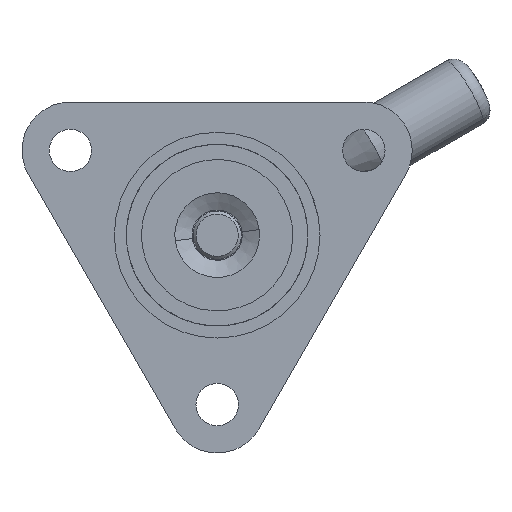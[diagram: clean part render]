
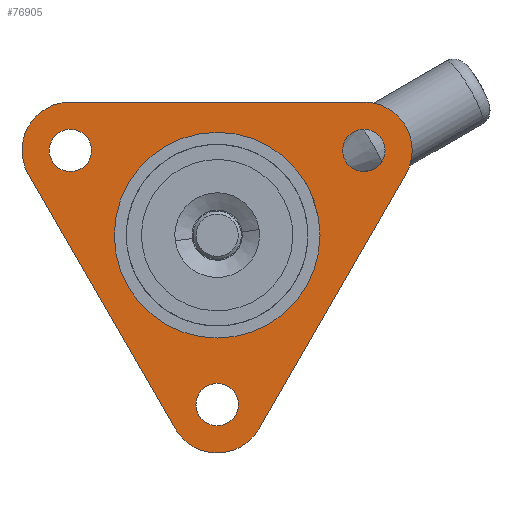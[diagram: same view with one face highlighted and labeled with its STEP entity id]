
A CAD part, front view. The second image highlights one B-rep face of the part: STEP entity #76905.
In plain terms, the highlighted planar face has unit normal (0, -1, 0).
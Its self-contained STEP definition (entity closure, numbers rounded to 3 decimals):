
#1835 = AXIS2_PLACEMENT_3D ( 'NONE', #77041, #76605, #75724 ) ;
#4236 = EDGE_CURVE ( 'NONE', #24502, #30993, #84709, .T. ) ;
#5323 = CARTESIAN_POINT ( 'NONE',  ( -127.75, 0., 6. ) ) ;
#5393 = ORIENTED_EDGE ( 'NONE', *, *, #125054, .T. ) ;
#7208 = FACE_OUTER_BOUND ( 'NONE', #18171, .T. ) ;
#7821 = AXIS2_PLACEMENT_3D ( 'NONE', #102102, #102009, #101970 ) ;
#9760 = CARTESIAN_POINT ( 'NONE',  ( -75.751, 0., 6. ) ) ;
#10213 = DIRECTION ( 'NONE',  ( 0., 1., 0. ) ) ;
#10938 = ORIENTED_EDGE ( 'NONE', *, *, #97482, .F. ) ;
#18098 = EDGE_CURVE ( 'NONE', #91615, #35105, #86009, .T. ) ;
#18171 = EDGE_LOOP ( 'NONE', ( #10938, #29555, #80240, #107930, #115090, #79913 ) ) ;
#19758 = VERTEX_POINT ( 'NONE', #74410 ) ;
#20046 = DIRECTION ( 'NONE',  ( -1., 0., 0. ) ) ;
#20107 = DIRECTION ( 'NONE',  ( 0., 0., 1. ) ) ;
#20142 = DIRECTION ( 'NONE',  ( 0., 1., 0. ) ) ;
#20288 = CARTESIAN_POINT ( 'NONE',  ( -124.25, 0., 6. ) ) ;
#20813 = AXIS2_PLACEMENT_3D ( 'NONE', #20288, #20142, #20046 ) ;
#21064 = CARTESIAN_POINT ( 'NONE',  ( -131.178, 0., 10. ) ) ;
#21697 = CIRCLE ( 'NONE', #20813, 3.5 ) ;
#22850 = DIRECTION ( 'NONE',  ( 0.5, 0., 0.866 ) ) ;
#22942 = CARTESIAN_POINT ( 'NONE',  ( -68.823, 0., 10. ) ) ;
#23204 = EDGE_CURVE ( 'NONE', #58658, #130313, #37476, .T. ) ;
#24502 = VERTEX_POINT ( 'NONE', #64154 ) ;
#25527 = CARTESIAN_POINT ( 'NONE',  ( -117., 0., 20. ) ) ;
#27708 = VERTEX_POINT ( 'NONE', #33888 ) ;
#29555 = ORIENTED_EDGE ( 'NONE', *, *, #4236, .T. ) ;
#30164 = DIRECTION ( 'NONE',  ( -1., 0., 0. ) ) ;
#30190 = DIRECTION ( 'NONE',  ( 0., 1., 0. ) ) ;
#30346 = CARTESIAN_POINT ( 'NONE',  ( -124.25, 0., 6. ) ) ;
#30993 = VERTEX_POINT ( 'NONE', #64030 ) ;
#33888 = CARTESIAN_POINT ( 'NONE',  ( -75.751, 0., -2. ) ) ;
#33971 = ORIENTED_EDGE ( 'NONE', *, *, #18098, .F. ) ;
#34559 = FACE_BOUND ( 'NONE', #35442, .T. ) ;
#35105 = VERTEX_POINT ( 'NONE', #25527 ) ;
#35442 = EDGE_LOOP ( 'NONE', ( #33971, #57965 ) ) ;
#36386 = LINE ( 'NONE', #64376, #115397 ) ;
#37476 = CIRCLE ( 'NONE', #129635, 3.5 ) ;
#37798 = FACE_BOUND ( 'NONE', #56945, .T. ) ;
#41139 = VECTOR ( 'NONE', #99182, 1000. ) ;
#42687 = AXIS2_PLACEMENT_3D ( 'NONE', #9760, #81806, #20107 ) ;
#43660 = AXIS2_PLACEMENT_3D ( 'NONE', #97369, #97186, #97022 ) ;
#46727 = EDGE_CURVE ( 'NONE', #19758, #30993, #130264, .T. ) ;
#48518 = CARTESIAN_POINT ( 'NONE',  ( -96.5, 0., 48. ) ) ;
#51261 = CIRCLE ( 'NONE', #42687, 8. ) ;
#51788 = AXIS2_PLACEMENT_3D ( 'NONE', #58185, #58094, #58055 ) ;
#55168 = ORIENTED_EDGE ( 'NONE', *, *, #90233, .T. ) ;
#56945 = EDGE_LOOP ( 'NONE', ( #93544, #55168 ) ) ;
#57965 = ORIENTED_EDGE ( 'NONE', *, *, #98300, .F. ) ;
#58055 = DIRECTION ( 'NONE',  ( 0., 0., -1. ) ) ;
#58094 = DIRECTION ( 'NONE',  ( 0., -1., 0. ) ) ;
#58185 = CARTESIAN_POINT ( 'NONE',  ( -100., 0., 20. ) ) ;
#58454 = VERTEX_POINT ( 'NONE', #115025 ) ;
#58658 = VERTEX_POINT ( 'NONE', #110247 ) ;
#60246 = ORIENTED_EDGE ( 'NONE', *, *, #23204, .T. ) ;
#61596 = CARTESIAN_POINT ( 'NONE',  ( -100., 0., 48. ) ) ;
#62024 = FACE_BOUND ( 'NONE', #107399, .T. ) ;
#63399 = DIRECTION ( 'NONE',  ( 0.5, 0., -0.866 ) ) ;
#64030 = CARTESIAN_POINT ( 'NONE',  ( -106.928, 0., 51.999 ) ) ;
#64154 = CARTESIAN_POINT ( 'NONE',  ( -93.072, 0., 51.999 ) ) ;
#64376 = CARTESIAN_POINT ( 'NONE',  ( -80.948, 0., 31.002 ) ) ;
#68610 = LINE ( 'NONE', #99927, #41139 ) ;
#68889 = CIRCLE ( 'NONE', #117902, 3.5 ) ;
#71281 = EDGE_CURVE ( 'NONE', #130952, #27708, #68610, .T. ) ;
#71874 = VERTEX_POINT ( 'NONE', #22942 ) ;
#71894 = CARTESIAN_POINT ( 'NONE',  ( -75.75, 0., 6. ) ) ;
#71906 = DIRECTION ( 'NONE',  ( -1., 0., 0. ) ) ;
#74410 = CARTESIAN_POINT ( 'NONE',  ( -131.177, 0., 10. ) ) ;
#75476 = CIRCLE ( 'NONE', #91059, 3.5 ) ;
#75724 = DIRECTION ( 'NONE',  ( -1., 0., 0. ) ) ;
#76605 = DIRECTION ( 'NONE',  ( 0., 1., 0. ) ) ;
#76905 = ADVANCED_FACE ( 'NONE', ( #89404, #37798, #62024, #34559, #7208 ), #97472, .T. ) ;
#77041 = CARTESIAN_POINT ( 'NONE',  ( -100., 0., 48. ) ) ;
#79913 = ORIENTED_EDGE ( 'NONE', *, *, #118855, .T. ) ;
#80240 = ORIENTED_EDGE ( 'NONE', *, *, #46727, .F. ) ;
#81806 = DIRECTION ( 'NONE',  ( 0., -1., 0. ) ) ;
#82245 = DIRECTION ( 'NONE',  ( -1., 0., 0. ) ) ;
#82645 = AXIS2_PLACEMENT_3D ( 'NONE', #91692, #91656, #91536 ) ;
#84709 = CIRCLE ( 'NONE', #82645, 8. ) ;
#84778 = CIRCLE ( 'NONE', #51788, 17. ) ;
#86009 = CIRCLE ( 'NONE', #86693, 17. ) ;
#86693 = AXIS2_PLACEMENT_3D ( 'NONE', #94090, #93984, #93808 ) ;
#86981 = CARTESIAN_POINT ( 'NONE',  ( -103.5, 0., 48. ) ) ;
#87414 = VERTEX_POINT ( 'NONE', #86981 ) ;
#87687 = EDGE_LOOP ( 'NONE', ( #117022, #60246 ) ) ;
#89404 = FACE_BOUND ( 'NONE', #87687, .T. ) ;
#90233 = EDGE_CURVE ( 'NONE', #58454, #108597, #93036, .T. ) ;
#91059 = AXIS2_PLACEMENT_3D ( 'NONE', #71894, #10213, #82245 ) ;
#91536 = DIRECTION ( 'NONE',  ( 0., 0., 1. ) ) ;
#91615 = VERTEX_POINT ( 'NONE', #101226 ) ;
#91656 = DIRECTION ( 'NONE',  ( 0., -1., 0. ) ) ;
#91692 = CARTESIAN_POINT ( 'NONE',  ( -100., 0., 47.999 ) ) ;
#93036 = CIRCLE ( 'NONE', #111099, 3.5 ) ;
#93544 = ORIENTED_EDGE ( 'NONE', *, *, #118948, .T. ) ;
#93808 = DIRECTION ( 'NONE',  ( 0., 0., -1. ) ) ;
#93984 = DIRECTION ( 'NONE',  ( 0., -1., 0. ) ) ;
#94090 = CARTESIAN_POINT ( 'NONE',  ( -100., 0., 20. ) ) ;
#97022 = DIRECTION ( 'NONE',  ( 0., 0., -1. ) ) ;
#97186 = DIRECTION ( 'NONE',  ( 0., -1., 0. ) ) ;
#97369 = CARTESIAN_POINT ( 'NONE',  ( -100., 0., 0. ) ) ;
#97472 = PLANE ( 'NONE',  #43660 ) ;
#97482 = EDGE_CURVE ( 'NONE', #24502, #71874, #36386, .T. ) ;
#98300 = EDGE_CURVE ( 'NONE', #35105, #91615, #84778, .T. ) ;
#99039 = CIRCLE ( 'NONE', #1835, 3.5 ) ;
#99182 = DIRECTION ( 'NONE',  ( 1., 0., 0. ) ) ;
#99830 = VERTEX_POINT ( 'NONE', #48518 ) ;
#99927 = CARTESIAN_POINT ( 'NONE',  ( -124.25, 0., -2. ) ) ;
#101194 = EDGE_CURVE ( 'NONE', #19758, #130952, #110442, .T. ) ;
#101226 = CARTESIAN_POINT ( 'NONE',  ( -83., 0., 20. ) ) ;
#101970 = DIRECTION ( 'NONE',  ( 0., 0., 1. ) ) ;
#102009 = DIRECTION ( 'NONE',  ( 0., -1., 0. ) ) ;
#102102 = CARTESIAN_POINT ( 'NONE',  ( -124.249, 0., 6. ) ) ;
#102311 = CARTESIAN_POINT ( 'NONE',  ( -79.25, 0., 6. ) ) ;
#105888 = EDGE_CURVE ( 'NONE', #130313, #58658, #21697, .T. ) ;
#107399 = EDGE_LOOP ( 'NONE', ( #5393, #108080 ) ) ;
#107930 = ORIENTED_EDGE ( 'NONE', *, *, #101194, .T. ) ;
#108080 = ORIENTED_EDGE ( 'NONE', *, *, #109117, .T. ) ;
#108597 = VERTEX_POINT ( 'NONE', #102311 ) ;
#109117 = EDGE_CURVE ( 'NONE', #99830, #87414, #99039, .T. ) ;
#110247 = CARTESIAN_POINT ( 'NONE',  ( -120.75, 0., 6. ) ) ;
#110442 = CIRCLE ( 'NONE', #7821, 8. ) ;
#111099 = AXIS2_PLACEMENT_3D ( 'NONE', #122717, #122677, #122552 ) ;
#115025 = CARTESIAN_POINT ( 'NONE',  ( -72.25, 0., 6. ) ) ;
#115090 = ORIENTED_EDGE ( 'NONE', *, *, #71281, .T. ) ;
#115397 = VECTOR ( 'NONE', #63399, 1000. ) ;
#117022 = ORIENTED_EDGE ( 'NONE', *, *, #105888, .T. ) ;
#117902 = AXIS2_PLACEMENT_3D ( 'NONE', #61596, #133651, #71906 ) ;
#118855 = EDGE_CURVE ( 'NONE', #27708, #71874, #51261, .T. ) ;
#118948 = EDGE_CURVE ( 'NONE', #108597, #58454, #75476, .T. ) ;
#122552 = DIRECTION ( 'NONE',  ( -1., 0., 0. ) ) ;
#122677 = DIRECTION ( 'NONE',  ( 0., 1., 0. ) ) ;
#122717 = CARTESIAN_POINT ( 'NONE',  ( -75.75, 0., 6. ) ) ;
#123738 = VECTOR ( 'NONE', #22850, 1000. ) ;
#125054 = EDGE_CURVE ( 'NONE', #87414, #99830, #68889, .T. ) ;
#129635 = AXIS2_PLACEMENT_3D ( 'NONE', #30346, #30190, #30164 ) ;
#129694 = CARTESIAN_POINT ( 'NONE',  ( -124.249, 0., -2. ) ) ;
#130264 = LINE ( 'NONE', #21064, #123738 ) ;
#130313 = VERTEX_POINT ( 'NONE', #5323 ) ;
#130952 = VERTEX_POINT ( 'NONE', #129694 ) ;
#133651 = DIRECTION ( 'NONE',  ( 0., 1., 0. ) ) ;
